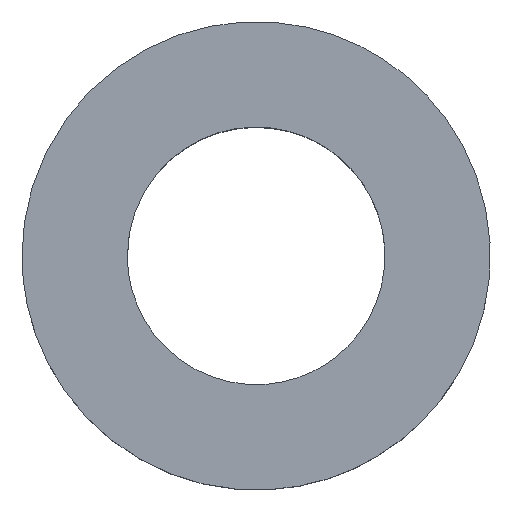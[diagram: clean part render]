
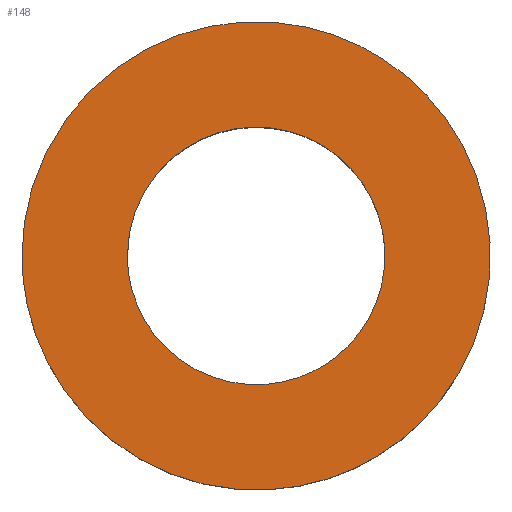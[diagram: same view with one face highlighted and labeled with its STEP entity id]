
A CAD part, top view. The second image highlights one B-rep face of the part: STEP entity #148.
In plain terms, the highlighted free-form (B-spline) face has degree [1, 1] with [2, 2] control points.
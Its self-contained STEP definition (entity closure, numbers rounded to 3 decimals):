
#115 = EDGE_CURVE('',#116,#116,#118,.T.);
#116 = VERTEX_POINT('',#117);
#117 = CARTESIAN_POINT('',(-3.,0.,1.5));
#118 = ( BOUNDED_CURVE() B_SPLINE_CURVE(2,(#119,#120,#121,#122,#123,#124
,#125),.UNSPECIFIED.,.T.,.F.) B_SPLINE_CURVE_WITH_KNOTS((1,2,2,2,2,1),(
    -2.094,0.,2.094,4.189,6.283,
8.378),.UNSPECIFIED.) CURVE() GEOMETRIC_REPRESENTATION_ITEM() 
RATIONAL_B_SPLINE_CURVE((1.,0.5,1.,0.5,1.,0.5,1.)) REPRESENTATION_ITEM(
  '') );
#119 = CARTESIAN_POINT('',(-3.,0.,1.5));
#120 = CARTESIAN_POINT('',(-3.,5.196,1.5));
#121 = CARTESIAN_POINT('',(1.5,2.598,1.5));
#122 = CARTESIAN_POINT('',(6.,0.,1.5));
#123 = CARTESIAN_POINT('',(1.5,-2.598,1.5));
#124 = CARTESIAN_POINT('',(-3.,-5.196,1.5));
#125 = CARTESIAN_POINT('',(-3.,0.,1.5));
#148 = ADVANCED_FACE('',(#149,#163),#166,.T.);
#149 = FACE_BOUND('',#150,.T.);
#150 = EDGE_LOOP('',(#151));
#151 = ORIENTED_EDGE('',*,*,#152,.T.);
#152 = EDGE_CURVE('',#153,#153,#155,.T.);
#153 = VERTEX_POINT('',#154);
#154 = CARTESIAN_POINT('',(-1.65,0.,1.5));
#155 = ( BOUNDED_CURVE() B_SPLINE_CURVE(2,(#156,#157,#158,#159,#160,#161
,#162),.UNSPECIFIED.,.T.,.F.) B_SPLINE_CURVE_WITH_KNOTS((1,2,2,2,2,1),(
    -2.094,0.,2.094,4.189,6.283,
8.378),.UNSPECIFIED.) CURVE() GEOMETRIC_REPRESENTATION_ITEM() 
RATIONAL_B_SPLINE_CURVE((1.,0.5,1.,0.5,1.,0.5,1.)) REPRESENTATION_ITEM(
  '') );
#156 = CARTESIAN_POINT('',(-1.65,0.,1.5));
#157 = CARTESIAN_POINT('',(-1.65,2.858,1.5));
#158 = CARTESIAN_POINT('',(0.825,1.429,1.5));
#159 = CARTESIAN_POINT('',(3.3,0.,1.5));
#160 = CARTESIAN_POINT('',(0.825,-1.429,1.5));
#161 = CARTESIAN_POINT('',(-1.65,-2.858,1.5));
#162 = CARTESIAN_POINT('',(-1.65,0.,1.5));
#163 = FACE_BOUND('',#164,.T.);
#164 = EDGE_LOOP('',(#165));
#165 = ORIENTED_EDGE('',*,*,#115,.F.);
#166 = B_SPLINE_SURFACE_WITH_KNOTS('',1,1,(
    (#167,#168)
    ,(#169,#170
  )),.UNSPECIFIED.,.F.,.F.,.F.,(2,2),(2,2),(0.,6.),(-3.,3.),
  .PIECEWISE_BEZIER_KNOTS.);
#167 = CARTESIAN_POINT('',(-3.,-3.,1.5));
#168 = CARTESIAN_POINT('',(-3.,3.,1.5));
#169 = CARTESIAN_POINT('',(3.,-3.,1.5));
#170 = CARTESIAN_POINT('',(3.,3.,1.5));
